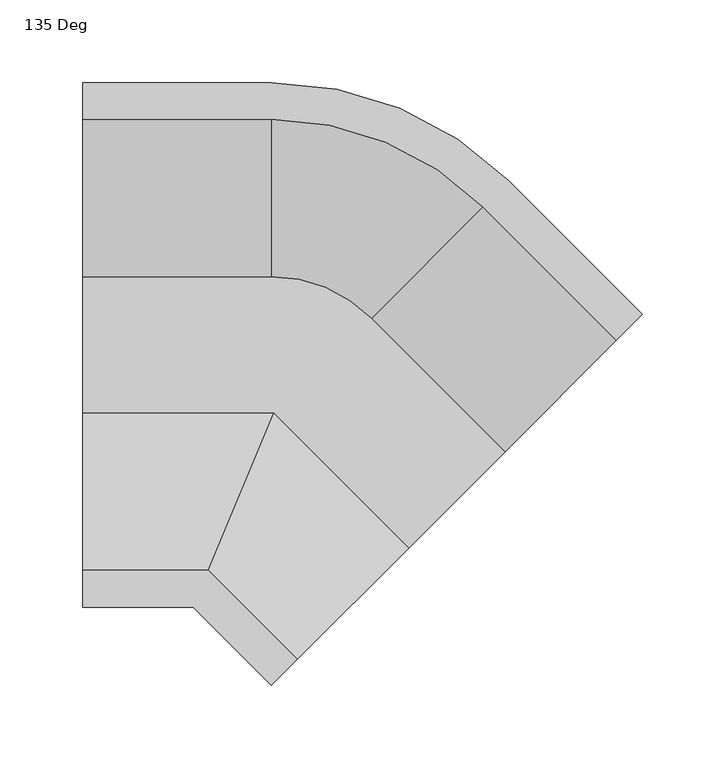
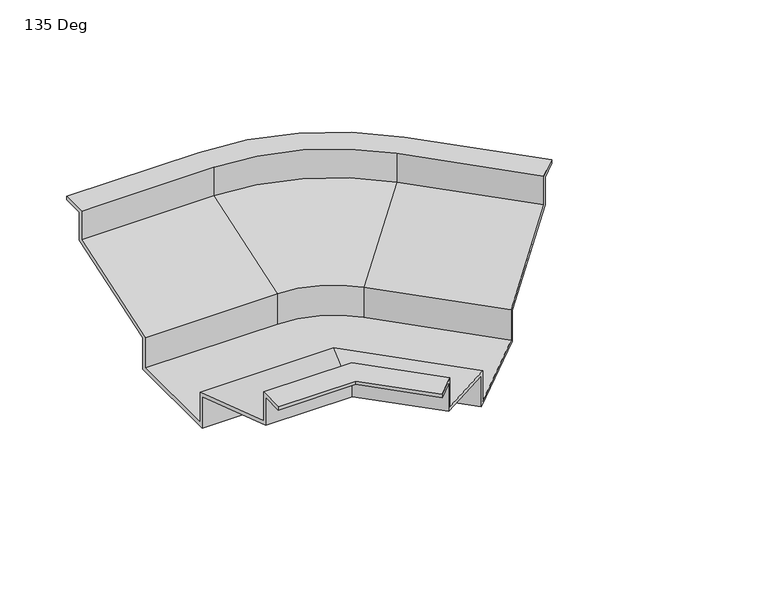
"""IFC4 building model written with IfcOpenShell, lengths in millimetres: furniture geometry, HermanMiller_Ethospace_E2828_CounterTopSupportFiller : 135 Deg."""

from ifc_helpers import new_model, si_unit, frame, origin, place, context, project, spatial, polyline, circle_curve, source, transform, mapped, element, save
from ifc_brep_helpers import plane_surface, cylinder_surface, revolved_surface, advanced_brep


def furniture_135_deg_68790faa(model_context):
    return source(origin(), model_context, "Body", "AdvancedBrep", [
        advanced_brep(
        [(-158.75, 53.975, 996.0634105), (-158.75, 149.225, 1027.8134105), (-158.75, 149.225, 1054.1), (-158.75, 171.45, 1054.1), (-158.75, 171.45, 1050.925), (-158.75, 152.4, 1050.925), (-158.75, 152.4, 1025.525), (-158.75, 57.15, 993.775), (-158.75, 57.15, 965.2), (-158.75, -31.75, 965.2), (-158.75, -31.75, 993.775), (-158.75, -127.0, 1025.525), (-158.75, -127.0, 1050.925), (-158.75, -146.05, 1050.925), (-158.75, -146.05, 1054.1), (-158.75, -123.825, 1054.1), (-158.75, -123.825, 1027.8134105), (-158.75, -28.575, 996.0634105), (-158.75, -28.575, 968.375), (-158.75, 53.975, 968.375), (-44.45, 53.975, 996.0634105), (-44.45, 149.225, 1027.8134105), (-44.45, 149.225, 1054.1), (83.5186497, 96.2186497, 1054.1), (164.3409548, 15.3963446, 1054.1), (180.056403, 31.1117928, 1054.1), (99.2340979, 111.9340979, 1054.1), (-44.45, 171.45, 1054.1), (-44.45, 171.45, 1050.925), (99.2340979, 111.9340979, 1050.925), (180.056403, 31.1117928, 1050.925), (166.5860188, 17.6414087, 1050.925), (85.7637138, 98.4637138, 1050.925), (-44.45, 152.4, 1050.925), (-44.45, 152.4, 1025.525), (-44.45, 57.15, 993.775), (-44.45, 57.15, 968.375), (-44.45, 57.15, 965.2), (18.4117928, 31.1117928, 965.2), (99.2340979, -49.7105122, 965.2), (36.3723051, -112.5723051, 965.2), (-44.45, -31.75, 965.2), (-44.45, 53.975, 968.375), (16.1667288, 28.8667288, 996.0634105), (83.5186497, 96.2186497, 1027.8134105), (85.7637138, 98.4637138, 1025.525), (18.4117928, 31.1117928, 993.775), (18.4117928, 31.1117928, 968.375), (16.1667288, 28.8667288, 968.375), (164.3409548, 15.3963446, 1027.8134105), (96.9890339, -51.9555763, 996.0634105), (96.9890339, -51.9555763, 968.375), (38.6173691, -110.3272411, 968.375), (38.6173691, -110.3272411, 996.0634105), (-28.7345518, -177.679162, 1027.8134105), (-28.7345518, -177.679162, 1054.1), (-44.45, -193.3946102, 1054.1), (-44.45, -193.3946102, 1050.925), (-30.9796158, -179.924226, 1050.925), (-30.9796158, -179.924226, 1025.525), (36.3723051, -112.5723051, 993.775), (99.2340979, -49.7105122, 993.775), (166.5860188, 17.6414087, 1025.525), (-43.1348719, -28.575, 968.375), (-44.45, -31.75, 993.775), (-83.9038418, -127.0, 1025.525), (-43.1348719, -28.575, 996.0634105), (-82.5887138, -123.825, 1027.8134105), (-82.5887138, -123.825, 1054.1), (-91.7946102, -146.05, 1054.1), (-91.7946102, -146.05, 1050.925), (-83.9038418, -127.0, 1050.925)],
        [
            (0, 1),
            (1, 2),
            (2, 3),
            (3, 4),
            (4, 5),
            (5, 6),
            (6, 7),
            (7, 8),
            (8, 9),
            (9, 10),
            (10, 11),
            (11, 12),
            (12, 13),
            (13, 14),
            (14, 15),
            (15, 16),
            (16, 17),
            (17, 18),
            (18, 19),
            (19, 0),
            (0, 20),
            (20, 21),
            (21, 1),
            (21, 22),
            (22, 2),
            (22, 23, circle_curve(frame((-44.45, -31.75, 1054.1), z_axis=(0.0, 0.0, -1.0), x_axis=(0.0, 1.0, 0.0)), 180.975)),
            (23, 24),
            (24, 25),
            (25, 26),
            (26, 27, circle_curve(frame((-44.45, -31.75, 1054.1), z_axis=(0.0, 0.0, 1.0), x_axis=(0.0, 1.0, 0.0)), 203.2)),
            (27, 3),
            (27, 28),
            (28, 4),
            (28, 29, circle_curve(frame((-44.45, -31.75, 1050.925), z_axis=(0.0, 0.0, -1.0), x_axis=(0.0, 1.0, 0.0)), 203.2)),
            (29, 30),
            (30, 31),
            (31, 32),
            (32, 33, circle_curve(frame((-44.45, -31.75, 1050.925), z_axis=(0.0, 0.0, 1.0), x_axis=(0.0, 1.0, 0.0)), 184.15)),
            (33, 5),
            (33, 34),
            (34, 6),
            (34, 35),
            (35, 7),
            (35, 36),
            (36, 37),
            (37, 8),
            (37, 38, circle_curve(frame((-44.45, -31.75, 965.2), z_axis=(0.0, 0.0, -1.0), x_axis=(0.0, 1.0, 0.0)), 88.9)),
            (38, 39),
            (39, 40),
            (40, 41),
            (41, 9),
            (19, 42),
            (42, 20),
            (20, 43, circle_curve(frame((-44.45, -31.75, 996.0634105), z_axis=(0.0, 0.0, -1.0), x_axis=(0.0, 1.0, 0.0)), 85.725)),
            (43, 44),
            (44, 21, circle_curve(frame((-44.45, -31.75, 1027.8134105), z_axis=(0.0, 0.0, 1.0), x_axis=(0.0, 1.0, 0.0)), 180.975)),
            (44, 23),
            (26, 29),
            (32, 45),
            (45, 34, circle_curve(frame((-44.45, -31.75, 1025.525), z_axis=(0.0, 0.0, 1.0), x_axis=(0.0, 1.0, 0.0)), 184.15)),
            (45, 46),
            (46, 35, circle_curve(frame((-44.45, -31.75, 993.775), z_axis=(0.0, 0.0, 1.0), x_axis=(0.0, 1.0, 0.0)), 88.9)),
            (46, 47),
            (47, 38),
            (42, 48, circle_curve(frame((-44.45, -31.75, 968.375), z_axis=(0.0, 0.0, -1.0), x_axis=(0.0, 1.0, 0.0)), 85.725)),
            (48, 43),
            (24, 49),
            (49, 50),
            (50, 51),
            (51, 52),
            (52, 53),
            (53, 54),
            (54, 55),
            (55, 56),
            (56, 57),
            (57, 58),
            (58, 59),
            (59, 60),
            (60, 40),
            (39, 61),
            (61, 62),
            (62, 31),
            (30, 25),
            (43, 50),
            (49, 44),
            (62, 45),
            (61, 46),
            (48, 51),
            (18, 63),
            (63, 52),
            (41, 64),
            (64, 10),
            (60, 64),
            (59, 65),
            (65, 64),
            (66, 53),
            (63, 66),
            (66, 67),
            (67, 54),
            (67, 68),
            (68, 55),
            (68, 15),
            (14, 69),
            (69, 56),
            (69, 70),
            (70, 57),
            (70, 13),
            (12, 71),
            (71, 58),
            (71, 65),
            (65, 11),
            (17, 66),
            (16, 67),
        ],
        [
            plane_surface(frame((-158.75, 171.45, 1562.1), z_axis=(-1.0, 0.0, 0.0), x_axis=(0.0, 0.0, 1.0))),
            plane_surface(frame((-158.75, 53.975, 996.0634105), z_axis=(0.0, -0.3162277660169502, 0.9486832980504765), x_axis=(1.0, 0.0, 0.0))),
            plane_surface(frame((-158.75, 149.225, 1027.8134105), z_axis=(0.0, -1.0, 0.0), x_axis=(1.0, 0.0, 0.0))),
            plane_surface(frame((-158.75, 149.225, 1054.1), z_axis=(0.0, 0.0, 1.0), x_axis=(1.0, 0.0, 0.0))),
            plane_surface(frame((-158.75, 171.45, 1054.1), z_axis=(0.0, 1.0, 0.0), x_axis=(1.0, 0.0, 0.0))),
            plane_surface(frame((-158.75, 171.45, 1050.925), z_axis=(0.0, 0.0, -1.0), x_axis=(1.0, 0.0, 0.0))),
            plane_surface(frame((-158.75, 152.4, 1050.925), z_axis=(0.0, 1.0, 0.0), x_axis=(1.0, 0.0, 0.0))),
            plane_surface(frame((-158.75, 152.4, 1025.525), z_axis=(0.0, 0.316227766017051, -0.9486832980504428), x_axis=(1.0, 0.0, 0.0))),
            plane_surface(frame((-158.75, 57.15, 993.775), z_axis=(0.0, 1.0, 0.0), x_axis=(1.0, 0.0, 0.0))),
            plane_surface(frame((-158.75, 57.15, 965.2), z_axis=(0.0, 0.0, -1.0), x_axis=(1.0, 0.0, 0.0))),
            plane_surface(frame((-158.75, 53.975, 965.2), z_axis=(0.0, -1.0, 0.0), x_axis=(1.0, 0.0, 0.0))),
            revolved_surface(polyline([(-44.45, 53.975, 996.0634105), (-44.45, 149.225, 1027.8134105)]), (-44.45, -31.75, 1562.1), (0.0, 0.0, -1.0)),
            revolved_surface(polyline([(-44.45, 149.225, 1027.8134105), (-44.45, 149.225, 1054.1)]), (-44.45, -31.75, 1562.1), (0.0, 0.0, -1.0)),
            cylinder_surface(frame((-44.45, -31.75, 1562.1), z_axis=(0.0, 0.0, -1.0), x_axis=(0.0, 1.0, 0.0)), 203.2),
            cylinder_surface(frame((-44.45, -31.75, 1562.1), z_axis=(0.0, 0.0, -1.0), x_axis=(0.0, 1.0, 0.0)), 184.15),
            revolved_surface(polyline([(-44.45, 152.4, 1025.525), (-44.45, 57.15, 993.775)]), (-44.45, -31.75, 1562.1), (0.0, 0.0, -1.0)),
            cylinder_surface(frame((-44.45, -31.75, 1562.1), z_axis=(0.0, 0.0, -1.0), x_axis=(0.0, 1.0, 0.0)), 88.9),
            revolved_surface(polyline([(-44.45, 53.974999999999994, 968.375), (-44.45, 53.974999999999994, 996.0634105)]), (-44.45, -31.75, 1562.1), (0.0, 0.0, -1.0)),
            plane_surface(frame((180.056403, 31.1117928, 1562.1), z_axis=(0.7071067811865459, -0.7071067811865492, 0.0), x_axis=(0.0, 0.0, 1.0))),
            plane_surface(frame((16.1667288, 28.8667288, 996.0634105), z_axis=(-0.2236067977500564, -0.22360679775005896, 0.9486832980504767), x_axis=(0.7071067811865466, -0.7071067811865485, 0.0))),
            plane_surface(frame((83.5186497, 96.2186497, 1027.8134105), z_axis=(-0.7071067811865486, -0.7071067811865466, 0.0), x_axis=(0.7071067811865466, -0.7071067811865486, 0.0))),
            plane_surface(frame((99.2340979, 111.9340979, 1054.1), z_axis=(0.7071067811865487, 0.7071067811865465, 0.0), x_axis=(0.7071067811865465, -0.7071067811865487, 0.0))),
            plane_surface(frame((85.7637138, 98.4637138, 1050.925), z_axis=(0.7071067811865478, 0.7071067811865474, 0.0), x_axis=(0.7071067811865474, -0.7071067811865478, 0.0))),
            plane_surface(frame((85.7637138, 98.4637138, 1025.525), z_axis=(0.22360679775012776, 0.2236067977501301, -0.9486832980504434), x_axis=(0.7071067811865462, -0.7071067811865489, 0.0))),
            plane_surface(frame((18.4117928, 31.1117928, 993.775), z_axis=(0.707106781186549, 0.707106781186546, 0.0), x_axis=(0.707106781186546, -0.707106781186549, 0.0))),
            plane_surface(frame((16.1667288, 28.8667288, 965.2), z_axis=(-0.7071067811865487, -0.7071067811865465, 0.0), x_axis=(0.7071067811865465, -0.7071067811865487, 0.0))),
            plane_surface(frame((-44.45, 57.15, 968.375), z_axis=(0.0, 0.0, 1.0), x_axis=(-1.0, 0.0, 0.0))),
            plane_surface(frame((-158.75, -31.75, 968.375), z_axis=(0.0, -1.0, 0.0), x_axis=(0.0, 0.0, -1.0))),
            plane_surface(frame((-44.45, -31.75, 968.375), z_axis=(-0.7071067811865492, -0.7071067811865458, 0.0), x_axis=(0.0, 0.0, -1.0))),
            plane_surface(frame((-30.9796158, -179.924226, 1025.525), z_axis=(-0.22360679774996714, -0.22360679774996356, -0.9486832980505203), x_axis=(-0.7071067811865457, 0.7071067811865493, 0.0))),
            plane_surface(frame((38.6173691, -110.3272411, 965.2), z_axis=(0.7071067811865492, 0.7071067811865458, 0.0), x_axis=(-0.7071067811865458, 0.7071067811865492, 0.0))),
            plane_surface(frame((38.6173691, -110.3272411, 996.0634105), z_axis=(0.2236067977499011, 0.2236067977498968, 0.9486832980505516), x_axis=(-0.7071067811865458, 0.7071067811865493, 0.0))),
            plane_surface(frame((-28.7345518, -177.679162, 1027.8134105), z_axis=(0.7071067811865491, 0.707106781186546, 0.0), x_axis=(-0.707106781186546, 0.7071067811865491, 0.0))),
            plane_surface(frame((-28.7345518, -177.679162, 1054.1), z_axis=(0.0, 0.0, 1.0000000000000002), x_axis=(-0.7071067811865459, 0.7071067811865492, 0.0))),
            plane_surface(frame((-44.45, -193.3946102, 1054.1), z_axis=(-0.7071067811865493, -0.7071067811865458, 0.0), x_axis=(-0.7071067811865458, 0.7071067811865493, 0.0))),
            plane_surface(frame((-44.45, -193.3946102, 1050.925), z_axis=(0.0, 0.0, -1.0), x_axis=(-0.7071067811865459, 0.7071067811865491, 0.0))),
            plane_surface(frame((-30.9796158, -179.924226, 1050.925), z_axis=(-0.7071067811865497, -0.7071067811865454, 0.0), x_axis=(-0.7071067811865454, 0.7071067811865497, 0.0))),
            plane_surface(frame((-83.9038418, -127.0, 1025.525), z_axis=(0.0, -0.31622776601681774, -0.9486832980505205), x_axis=(-1.0, 0.0, 0.0))),
            plane_surface(frame((-43.1348719, -28.575, 965.2), z_axis=(0.0, 1.0, 0.0), x_axis=(-1.0, 0.0, 0.0))),
            plane_surface(frame((-43.1348719, -28.575, 996.0634105), z_axis=(0.0, 0.31622776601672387, 0.9486832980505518), x_axis=(-1.0, 0.0, 0.0))),
            plane_surface(frame((-82.5887138, -123.825, 1027.8134105), z_axis=(0.0, 1.0, 0.0), x_axis=(-1.0, 0.0, 0.0))),
            plane_surface(frame((-91.7946102, -146.05, 1054.1), z_axis=(0.0, -1.0, 0.0), x_axis=(-1.0, 0.0, 0.0))),
            plane_surface(frame((-83.9038418, -127.0, 1050.925), z_axis=(0.0, -1.0, 0.0), x_axis=(-1.0, 0.0, 0.0))),
        ],
        [
            (0, [[1, 2, 3, 4, 5, 6, 7, 8, 9, 10, 11, 12, 13, 14, 15, 16, 17, 18, 19, 20]]),
            (1, [[-1, 21, 22, 23]]),
            (2, [[-2, -23, 24, 25]]),
            (3, [[-3, -25, 26, 27, 28, 29, 30, 31]]),
            (4, [[-4, -31, 32, 33]]),
            (5, [[-5, -33, 34, 35, 36, 37, 38, 39]]),
            (6, [[-6, -39, 40, 41]]),
            (7, [[-7, -41, 42, 43]]),
            (8, [[-43, 44, 45, 46, -8]]),
            (9, [[-9, -46, 47, 48, 49, 50, 51]]),
            (10, [[-21, -20, 52, 53]]),
            (11, [[-22, 54, 55, 56]]),
            (12, [[-24, -56, 57, -26]]),
            (13, [[-30, 58, -34, -32]]),
            (14, [[-38, 59, 60, -40]]),
            (15, [[-42, -60, 61, 62]]),
            (16, [[-47, -45, -44, -62, 63, 64]]),
            (17, [[-54, -53, 65, 66]]),
            (18, [[-28, 67, 68, 69, 70, 71, 72, 73, 74, 75, 76, 77, 78, 79, -49, 80, 81, 82, -36, 83]]),
            (19, [[-55, 84, -68, 85]]),
            (20, [[-27, -57, -85, -67]]),
            (21, [[-29, -83, -35, -58]]),
            (22, [[-37, -82, 86, -59]]),
            (23, [[-61, -86, -81, 87]]),
            (24, [[-48, -64, -63, -87, -80]]),
            (25, [[-84, -66, 88, -69]]),
            (26, [[-52, -19, 89, 90, -70, -88, -65]]),
            (27, [[-10, -51, 91, 92]]),
            (28, [[-91, -50, -79, 93]]),
            (29, [[-78, 94, 95, -93]]),
            (30, [[96, -71, -90, 97]]),
            (31, [[-72, -96, 98, 99]]),
            (32, [[-73, -99, 100, 101]]),
            (33, [[-74, -101, 102, -15, 103, 104]]),
            (34, [[-75, -104, 105, 106]]),
            (35, [[-76, -106, 107, -13, 108, 109]]),
            (36, [[-77, -109, 110, -94]]),
            (37, [[-95, 111, -11, -92]]),
            (38, [[112, -97, -89, -18]]),
            (39, [[-98, -112, -17, 113]]),
            (40, [[-100, -113, -16, -102]]),
            (41, [[-103, -14, -107, -105]]),
            (42, [[-108, -12, -111, -110]]),
        ],
    ),
    ])


if __name__ == "__main__":
    model = new_model("IFC4")
    model_context = context("Model", 3, world=origin())
    ifc_project = project(units=[si_unit("LENGTHUNIT", "METRE", prefix="MILLI")], contexts=[model_context])
    site = spatial("IfcSite", under=ifc_project)
    building = spatial("IfcBuilding", under=site)
    placement = place(None, origin())
    furniture_135_deg_shape = furniture_135_deg_68790faa(model_context)
    element("IfcFurniture", 1, ObjectType="HermanMiller_Ethospace_E2828_CounterTopSupportFiller : 135 Deg", at=placement, inside=building, context=model_context, shape_type="MappedRepresentation", body=[
        mapped(furniture_135_deg_shape, transform((0.0, 0.0, 0.0), x_axis=(1.0, 0.0, 0.0), y_axis=(0.0, 1.0, 0.0), z_axis=(0.0, 0.0, 1.0))),
    ])
    save(model, "model.ifc")
